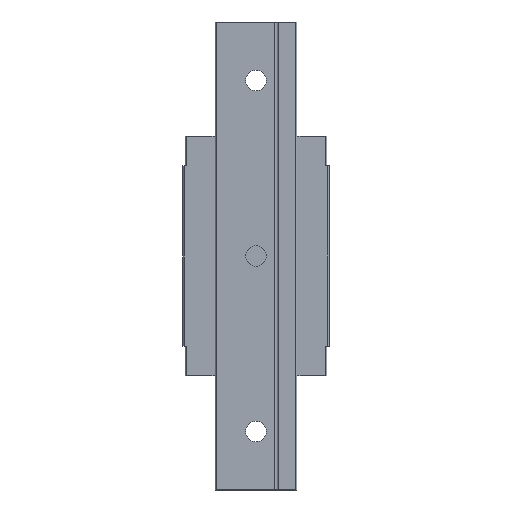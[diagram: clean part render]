
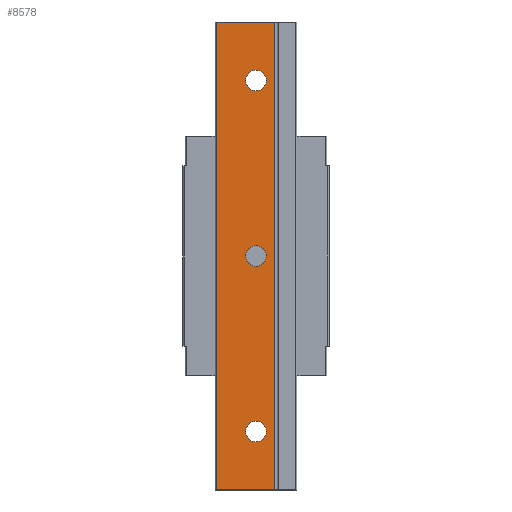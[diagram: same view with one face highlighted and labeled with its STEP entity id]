
A CAD part, front view. The second image highlights one B-rep face of the part: STEP entity #8578.
In plain terms, the highlighted planar face has unit normal (0, -1, 0).
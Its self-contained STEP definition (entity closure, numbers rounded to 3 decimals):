
#36 = ORIENTED_EDGE ( 'NONE', *, *, #2694, .T. ) ;
#45 = LINE ( 'NONE', #619, #4605 ) ;
#128 = ORIENTED_EDGE ( 'NONE', *, *, #7271, .F. ) ;
#139 = FACE_BOUND ( 'NONE', #7623, .T. ) ;
#262 = DIRECTION ( 'NONE',  ( 0., 1., 0. ) ) ;
#619 = CARTESIAN_POINT ( 'NONE',  ( 3.5, 0., -40. ) ) ;
#641 = VERTEX_POINT ( 'NONE', #8252 ) ;
#647 = ORIENTED_EDGE ( 'NONE', *, *, #5003, .F. ) ;
#717 = CARTESIAN_POINT ( 'NONE',  ( -6.8, 0., 40. ) ) ;
#968 = CARTESIAN_POINT ( 'NONE',  ( 3.2, 0., -40. ) ) ;
#1034 = EDGE_CURVE ( 'NONE', #5692, #11593, #6017, .T. ) ;
#1036 = ORIENTED_EDGE ( 'NONE', *, *, #2850, .F. ) ;
#1070 = CARTESIAN_POINT ( 'NONE',  ( -7., 0., 40. ) ) ;
#1191 = PLANE ( 'NONE',  #4638 ) ;
#1402 = CIRCLE ( 'NONE', #10807, 1.75 ) ;
#1428 = VERTEX_POINT ( 'NONE', #8185 ) ;
#1603 = DIRECTION ( 'NONE',  ( 0., -1., 0. ) ) ;
#1999 = EDGE_LOOP ( 'NONE', ( #7281, #647 ) ) ;
#2265 = LINE ( 'NONE', #4989, #11406 ) ;
#2269 = ORIENTED_EDGE ( 'NONE', *, *, #4146, .F. ) ;
#2574 = DIRECTION ( 'NONE',  ( 0., 0., 1. ) ) ;
#2694 = EDGE_CURVE ( 'NONE', #4173, #6205, #2265, .T. ) ;
#2850 = EDGE_CURVE ( 'NONE', #11593, #5692, #3949, .T. ) ;
#2933 = VECTOR ( 'NONE', #2574, 1000. ) ;
#3023 = DIRECTION ( 'NONE',  ( 0., -1., 0. ) ) ;
#3172 = EDGE_LOOP ( 'NONE', ( #1036, #6013 ) ) ;
#3305 = ORIENTED_EDGE ( 'NONE', *, *, #7295, .F. ) ;
#3360 = DIRECTION ( 'NONE',  ( 0., 0., -1. ) ) ;
#3411 = CARTESIAN_POINT ( 'NONE',  ( -6.8, 0., -40. ) ) ;
#3514 = DIRECTION ( 'NONE',  ( 0., 0., -1. ) ) ;
#3568 = DIRECTION ( 'NONE',  ( 0., -1., 0. ) ) ;
#3576 = FACE_BOUND ( 'NONE', #1999, .T. ) ;
#3673 = AXIS2_PLACEMENT_3D ( 'NONE', #10678, #11627, #3514 ) ;
#3818 = VERTEX_POINT ( 'NONE', #6209 ) ;
#3949 = CIRCLE ( 'NONE', #7577, 1.75 ) ;
#4146 = EDGE_CURVE ( 'NONE', #4173, #5511, #9354, .T. ) ;
#4173 = VERTEX_POINT ( 'NONE', #6668 ) ;
#4605 = VECTOR ( 'NONE', #6094, 1000. ) ;
#4638 = AXIS2_PLACEMENT_3D ( 'NONE', #1070, #262, #4736 ) ;
#4667 = EDGE_CURVE ( 'NONE', #5511, #9332, #45, .T. ) ;
#4712 = CARTESIAN_POINT ( 'NONE',  ( 0., 0., -1.75 ) ) ;
#4736 = DIRECTION ( 'NONE',  ( 0., 0., 1. ) ) ;
#4958 = CARTESIAN_POINT ( 'NONE',  ( 0., 0., 1.75 ) ) ;
#4989 = CARTESIAN_POINT ( 'NONE',  ( 3.5, 0., 40. ) ) ;
#5003 = EDGE_CURVE ( 'NONE', #3818, #641, #10338, .T. ) ;
#5068 = LINE ( 'NONE', #717, #2933 ) ;
#5511 = VERTEX_POINT ( 'NONE', #968 ) ;
#5692 = VERTEX_POINT ( 'NONE', #4958 ) ;
#5764 = VECTOR ( 'NONE', #9329, 1000. ) ;
#6013 = ORIENTED_EDGE ( 'NONE', *, *, #1034, .F. ) ;
#6017 = CIRCLE ( 'NONE', #3673, 1.75 ) ;
#6094 = DIRECTION ( 'NONE',  ( -1., 0., 0. ) ) ;
#6205 = VERTEX_POINT ( 'NONE', #7166 ) ;
#6209 = CARTESIAN_POINT ( 'NONE',  ( 0., 0., -28.25 ) ) ;
#6371 = CARTESIAN_POINT ( 'NONE',  ( 0., 0., -30. ) ) ;
#6397 = DIRECTION ( 'NONE',  ( 0., 0., -1. ) ) ;
#6401 = AXIS2_PLACEMENT_3D ( 'NONE', #9876, #1603, #8834 ) ;
#6552 = CARTESIAN_POINT ( 'NONE',  ( 3.2, 0., 40. ) ) ;
#6668 = CARTESIAN_POINT ( 'NONE',  ( 3.2, 0., 40. ) ) ;
#6680 = AXIS2_PLACEMENT_3D ( 'NONE', #6371, #10971, #10131 ) ;
#6808 = AXIS2_PLACEMENT_3D ( 'NONE', #8495, #3023, #10348 ) ;
#7166 = CARTESIAN_POINT ( 'NONE',  ( -6.8, 0., 40. ) ) ;
#7271 = EDGE_CURVE ( 'NONE', #7705, #1428, #10803, .T. ) ;
#7281 = ORIENTED_EDGE ( 'NONE', *, *, #9441, .F. ) ;
#7295 = EDGE_CURVE ( 'NONE', #9332, #6205, #5068, .T. ) ;
#7577 = AXIS2_PLACEMENT_3D ( 'NONE', #9863, #10712, #3360 ) ;
#7623 = EDGE_LOOP ( 'NONE', ( #128, #11037 ) ) ;
#7680 = CARTESIAN_POINT ( 'NONE',  ( 0., 0., 28.25 ) ) ;
#7683 = DIRECTION ( 'NONE',  ( -1., 0., 0. ) ) ;
#7705 = VERTEX_POINT ( 'NONE', #7680 ) ;
#8185 = CARTESIAN_POINT ( 'NONE',  ( 0., 0., 31.75 ) ) ;
#8252 = CARTESIAN_POINT ( 'NONE',  ( 0., 0., -31.75 ) ) ;
#8495 = CARTESIAN_POINT ( 'NONE',  ( 0., 0., 30. ) ) ;
#8578 = ADVANCED_FACE ( 'NONE', ( #10875, #3576, #10160, #139 ), #1191, .F. ) ;
#8765 = EDGE_LOOP ( 'NONE', ( #2269, #36, #3305, #10643 ) ) ;
#8834 = DIRECTION ( 'NONE',  ( 0., 0., -1. ) ) ;
#9329 = DIRECTION ( 'NONE',  ( 0., 0., -1. ) ) ;
#9332 = VERTEX_POINT ( 'NONE', #3411 ) ;
#9354 = LINE ( 'NONE', #6552, #5764 ) ;
#9441 = EDGE_CURVE ( 'NONE', #641, #3818, #1402, .T. ) ;
#9863 = CARTESIAN_POINT ( 'NONE',  ( 0., 0., 0. ) ) ;
#9876 = CARTESIAN_POINT ( 'NONE',  ( 0., 0., 30. ) ) ;
#10131 = DIRECTION ( 'NONE',  ( 0., 0., -1. ) ) ;
#10160 = FACE_BOUND ( 'NONE', #3172, .T. ) ;
#10273 = EDGE_CURVE ( 'NONE', #1428, #7705, #11798, .T. ) ;
#10338 = CIRCLE ( 'NONE', #6680, 1.75 ) ;
#10348 = DIRECTION ( 'NONE',  ( 0., 0., -1. ) ) ;
#10643 = ORIENTED_EDGE ( 'NONE', *, *, #4667, .F. ) ;
#10678 = CARTESIAN_POINT ( 'NONE',  ( 0., 0., 0. ) ) ;
#10712 = DIRECTION ( 'NONE',  ( 0., -1., 0. ) ) ;
#10803 = CIRCLE ( 'NONE', #6401, 1.75 ) ;
#10807 = AXIS2_PLACEMENT_3D ( 'NONE', #10930, #3568, #6397 ) ;
#10875 = FACE_OUTER_BOUND ( 'NONE', #8765, .T. ) ;
#10930 = CARTESIAN_POINT ( 'NONE',  ( 0., 0., -30. ) ) ;
#10971 = DIRECTION ( 'NONE',  ( 0., -1., 0. ) ) ;
#11037 = ORIENTED_EDGE ( 'NONE', *, *, #10273, .F. ) ;
#11406 = VECTOR ( 'NONE', #7683, 1000. ) ;
#11593 = VERTEX_POINT ( 'NONE', #4712 ) ;
#11627 = DIRECTION ( 'NONE',  ( 0., -1., 0. ) ) ;
#11798 = CIRCLE ( 'NONE', #6808, 1.75 ) ;
